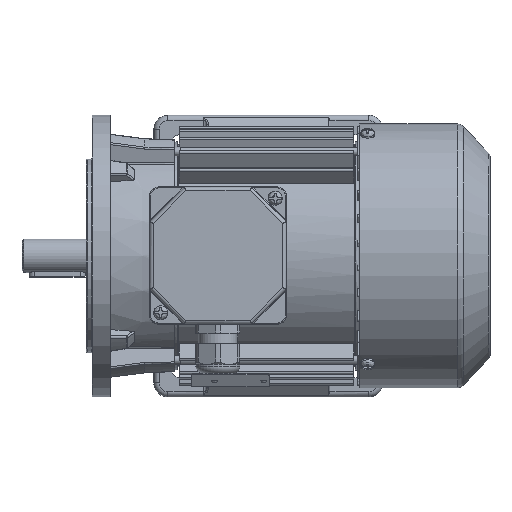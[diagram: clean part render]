
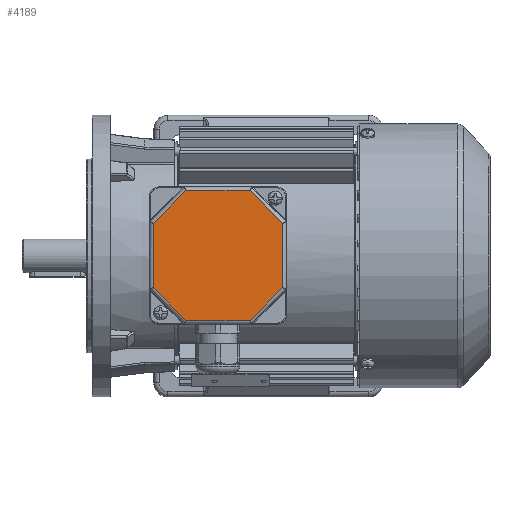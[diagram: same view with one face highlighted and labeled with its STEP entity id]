
A CAD part, top view. The second image highlights one B-rep face of the part: STEP entity #4189.
In plain terms, the highlighted planar face has unit normal (0, 0, 1).
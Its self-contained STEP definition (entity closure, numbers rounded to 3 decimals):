
#4189 = ADVANCED_FACE( '', ( #10516 ), #10517, .T. );
#10516 = FACE_OUTER_BOUND( '', #24111, .T. );
#10517 = PLANE( '', #24112 );
#24111 = EDGE_LOOP( '', ( #70133, #70134, #70135, #70136, #70137, #70138, #70139, #70140 ) );
#24112 = AXIS2_PLACEMENT_3D( '', #70141, #70142, #70143 );
#70133 = ORIENTED_EDGE( '', *, *, #94159, .T. );
#70134 = ORIENTED_EDGE( '', *, *, #94403, .T. );
#70135 = ORIENTED_EDGE( '', *, *, #94404, .T. );
#70136 = ORIENTED_EDGE( '', *, *, #94056, .T. );
#70137 = ORIENTED_EDGE( '', *, *, #94405, .T. );
#70138 = ORIENTED_EDGE( '', *, *, #94192, .T. );
#70139 = ORIENTED_EDGE( '', *, *, #94406, .T. );
#70140 = ORIENTED_EDGE( '', *, *, #94407, .T. );
#70141 = CARTESIAN_POINT( '', ( -39., 39., 12. ) );
#70142 = DIRECTION( '', ( 0., 0., 1. ) );
#70143 = DIRECTION( '', ( 1., 0., 0. ) );
#94056 = EDGE_CURVE( '', #105455, #105456, #105457, .T. );
#94159 = EDGE_CURVE( '', #105638, #105636, #105639, .F. );
#94192 = EDGE_CURVE( '', #105690, #105691, #105692, .T. );
#94403 = EDGE_CURVE( '', #105636, #106054, #106055, .T. );
#94404 = EDGE_CURVE( '', #106054, #105455, #106056, .F. );
#94405 = EDGE_CURVE( '', #105456, #105690, #106057, .F. );
#94406 = EDGE_CURVE( '', #105691, #104668, #106058, .F. );
#94407 = EDGE_CURVE( '', #104668, #105638, #106059, .T. );
#104668 = VERTEX_POINT( '', #123816 );
#105455 = VERTEX_POINT( '', #126158 );
#105456 = VERTEX_POINT( '', #126159 );
#105457 = LINE( '', #126160, #126161 );
#105636 = VERTEX_POINT( '', #126625 );
#105638 = VERTEX_POINT( '', #126627 );
#105639 = LINE( '', #126628, #126629 );
#105690 = VERTEX_POINT( '', #126923 );
#105691 = VERTEX_POINT( '', #126924 );
#105692 = LINE( '', #126925, #126926 );
#106054 = VERTEX_POINT( '', #128099 );
#106055 = LINE( '', #128100, #128101 );
#106056 = LINE( '', #128102, #128103 );
#106057 = LINE( '', #128104, #128105 );
#106058 = LINE( '', #128106, #128107 );
#106059 = LINE( '', #128108, #128109 );
#123816 = CARTESIAN_POINT( '', ( 18.255, -36.825, 12. ) );
#126158 = CARTESIAN_POINT( '', ( -18.255, 36.825, 12. ) );
#126159 = CARTESIAN_POINT( '', ( -36.825, 18.255, 12. ) );
#126160 = CARTESIAN_POINT( '', ( -37.401, 17.679, 12. ) );
#126161 = VECTOR( '', #166763, 1000. );
#126625 = CARTESIAN_POINT( '', ( 36.825, 18.255, 12. ) );
#126627 = CARTESIAN_POINT( '', ( 36.825, -18.255, 12. ) );
#126628 = CARTESIAN_POINT( '', ( 36.825, 19.069, 12. ) );
#126629 = VECTOR( '', #166882, 1000. );
#126923 = CARTESIAN_POINT( '', ( -36.825, -18.255, 12. ) );
#126924 = CARTESIAN_POINT( '', ( -18.255, -36.825, 12. ) );
#126925 = CARTESIAN_POINT( '', ( -17.679, -37.401, 12. ) );
#126926 = VECTOR( '', #166923, 1000. );
#128099 = CARTESIAN_POINT( '', ( 18.255, 36.825, 12. ) );
#128100 = CARTESIAN_POINT( '', ( 17.679, 37.401, 12. ) );
#128101 = VECTOR( '', #167170, 1000. );
#128102 = CARTESIAN_POINT( '', ( -19.069, 36.825, 12. ) );
#128103 = VECTOR( '', #167171, 1000. );
#128104 = CARTESIAN_POINT( '', ( -36.825, -19.069, 12. ) );
#128105 = VECTOR( '', #167172, 1000. );
#128106 = CARTESIAN_POINT( '', ( 19.069, -36.825, 12. ) );
#128107 = VECTOR( '', #167173, 1000. );
#128108 = CARTESIAN_POINT( '', ( 37.401, -17.679, 12. ) );
#128109 = VECTOR( '', #167174, 1000. );
#166763 = DIRECTION( '', ( -0.707, -0.707, 0. ) );
#166882 = DIRECTION( '', ( 0., -1., 0. ) );
#166923 = DIRECTION( '', ( 0.707, -0.707, 0. ) );
#167170 = DIRECTION( '', ( -0.707, 0.707, 0. ) );
#167171 = DIRECTION( '', ( 1., 0., 0. ) );
#167172 = DIRECTION( '', ( 0., 1., 0. ) );
#167173 = DIRECTION( '', ( -1., 0., 0. ) );
#167174 = DIRECTION( '', ( 0.707, 0.707, 0. ) );
